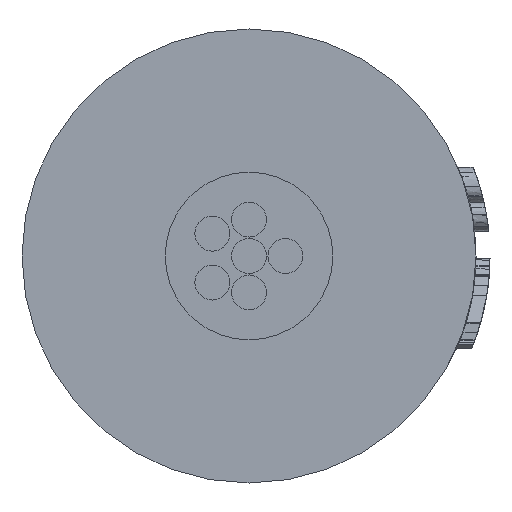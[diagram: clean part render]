
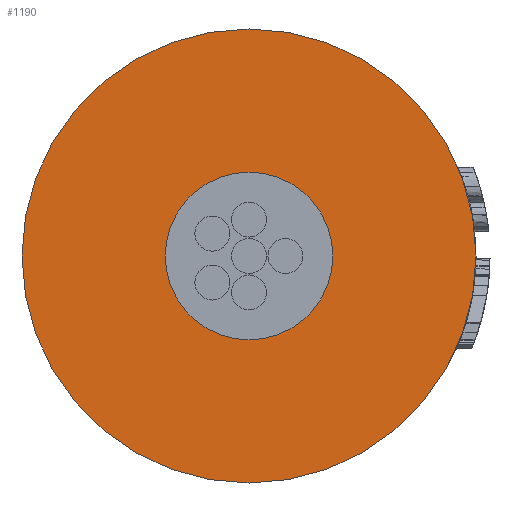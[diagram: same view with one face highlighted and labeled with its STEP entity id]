
A CAD part, front view. The second image highlights one B-rep face of the part: STEP entity #1190.
In plain terms, the highlighted planar face has unit normal (0, -1, 0).
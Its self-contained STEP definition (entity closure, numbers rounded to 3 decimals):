
#112=FACE_BOUND('',#3602,.T.);
#113=FACE_BOUND('',#3603,.T.);
#249=CIRCLE('',#13391,1.2);
#250=CIRCLE('',#13393,3.25);
#535=PLANE('',#13394);
#1190=ADVANCED_FACE('',(#112,#113),#535,.F.);
#3602=EDGE_LOOP('',(#5926));
#3603=EDGE_LOOP('',(#5927));
#5926=ORIENTED_EDGE('',*,*,#10581,.F.);
#5927=ORIENTED_EDGE('',*,*,#10580,.T.);
#8766=VERTEX_POINT('',#26572);
#8767=VERTEX_POINT('',#26575);
#10580=EDGE_CURVE('',#8766,#8766,#249,.T.);
#10581=EDGE_CURVE('',#8767,#8767,#250,.T.);
#13391=AXIS2_PLACEMENT_3D('',#26571,#14532,#14533);
#13393=AXIS2_PLACEMENT_3D('',#26574,#14536,#14537);
#13394=AXIS2_PLACEMENT_3D('',#26576,#14538,#14539);
#14532=DIRECTION('',(0.,1.,0.));
#14533=DIRECTION('',(1.,0.,0.));
#14536=DIRECTION('',(0.,1.,0.));
#14537=DIRECTION('',(1.,0.,0.));
#14538=DIRECTION('',(0.,1.,0.));
#14539=DIRECTION('',(-1.,0.,0.));
#26571=CARTESIAN_POINT('',(0.,2.,0.));
#26572=CARTESIAN_POINT('',(1.2,2.,0.));
#26574=CARTESIAN_POINT('',(0.,2.,0.));
#26575=CARTESIAN_POINT('',(3.25,2.,0.));
#26576=CARTESIAN_POINT('',(0.,2.,0.));
